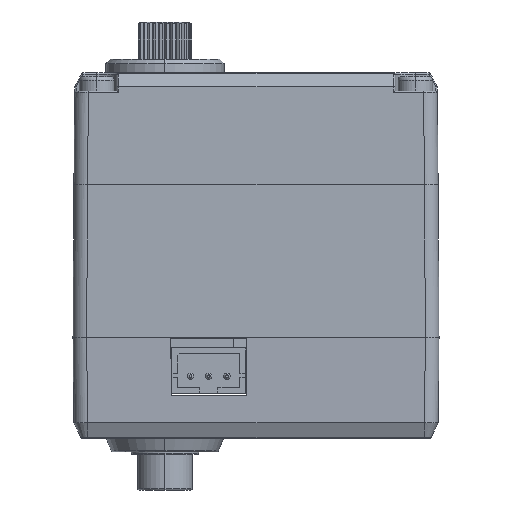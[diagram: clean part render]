
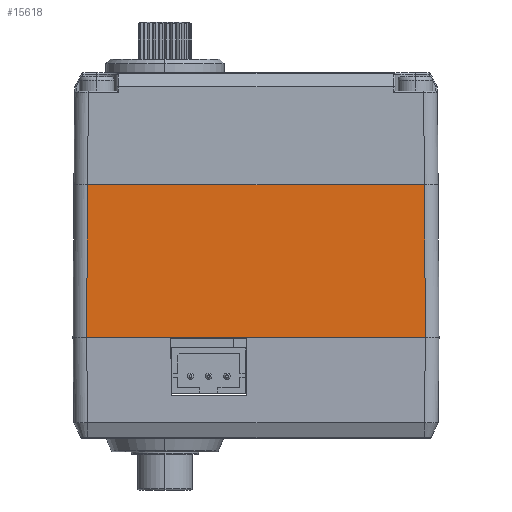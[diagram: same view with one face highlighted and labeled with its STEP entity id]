
A CAD part, left-side view. The second image highlights one B-rep face of the part: STEP entity #15618.
In plain terms, the highlighted planar face has unit normal (-1, 0, 0.006).
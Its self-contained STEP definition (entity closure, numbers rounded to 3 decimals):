
#15220=DIRECTION('',(0.,-1.,0.));
#15221=VECTOR('',#15220,37.2);
#15222=CARTESIAN_POINT('',(-10.1,18.6,0.));
#15223=LINE('',#15222,#15221);
#15296=DIRECTION('',(0.006,-0.006,1.));
#15297=VECTOR('',#15296,16.701);
#15298=CARTESIAN_POINT('',(-10.1,18.6,0.));
#15299=LINE('',#15298,#15297);
#15300=DIRECTION('',(0.,-1.,0.));
#15301=VECTOR('',#15300,37.);
#15302=CARTESIAN_POINT('',(-10.,18.5,16.7));
#15303=LINE('',#15302,#15301);
#15304=DIRECTION('',(-0.006,-0.006,-1.));
#15305=VECTOR('',#15304,16.701);
#15306=CARTESIAN_POINT('',(-10.,-18.5,16.7));
#15307=LINE('',#15306,#15305);
#15308=CARTESIAN_POINT('',(-10.1,18.6,0.));
#15452=VERTEX_POINT('',#15308);
#15453=CARTESIAN_POINT('',(-10.1,-18.6,0.));
#15454=VERTEX_POINT('',#15453);
#15481=CARTESIAN_POINT('',(-10.,18.5,16.7));
#15482=CARTESIAN_POINT('',(-10.,-18.5,16.7));
#15483=VERTEX_POINT('',#15481);
#15484=VERTEX_POINT('',#15482);
#15605=CARTESIAN_POINT('',(-10.1,0.,0.06));
#15606=DIRECTION('',(1.,0.,-0.006));
#15607=DIRECTION('',(-0.006,0.,-1.));
#15608=AXIS2_PLACEMENT_3D('',#15605,#15606,#15607);
#15609=PLANE('',#15608);
#15610=ORIENTED_EDGE('',*,*,#15516,.F.);
#15612=ORIENTED_EDGE('',*,*,#15611,.T.);
#15613=ORIENTED_EDGE('',*,*,#15569,.T.);
#15615=ORIENTED_EDGE('',*,*,#15614,.T.);
#15616=EDGE_LOOP('',(#15610,#15612,#15613,#15615));
#15617=FACE_OUTER_BOUND('',#15616,.F.);
#15516=EDGE_CURVE('',#15452,#15454,#15223,.T.);
#15569=EDGE_CURVE('',#15483,#15484,#15303,.T.);
#15611=EDGE_CURVE('',#15452,#15483,#15299,.T.);
#15614=EDGE_CURVE('',#15484,#15454,#15307,.T.);
#15618=ADVANCED_FACE('',(#15617),#15609,.F.);
